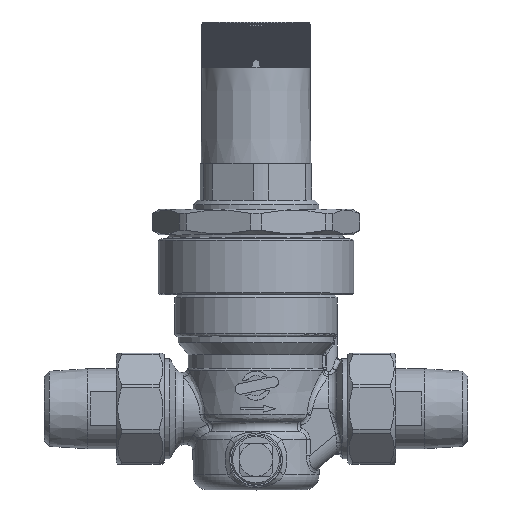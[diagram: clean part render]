
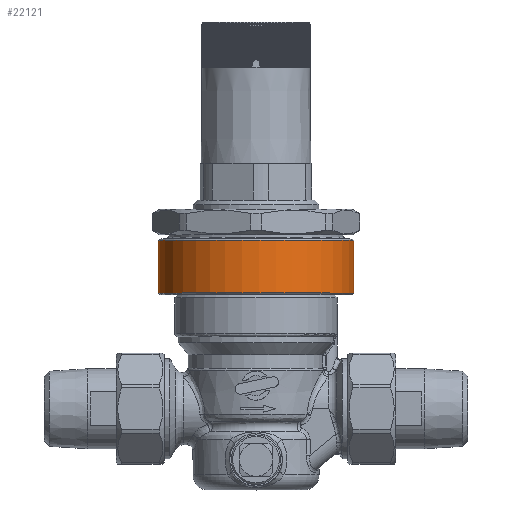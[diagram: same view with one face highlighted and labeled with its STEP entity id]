
A CAD part, top view. The second image highlights one B-rep face of the part: STEP entity #22121.
In plain terms, the highlighted cylindrical face has radius 32.5 mm (diameter 65 mm), a full revolution.
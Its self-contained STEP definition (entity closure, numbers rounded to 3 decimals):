
#841=CYLINDRICAL_SURFACE('',#24122,32.5);
#1887=CIRCLE('',#24121,32.5);
#1888=CIRCLE('',#24123,32.5);
#2727=FACE_OUTER_BOUND('',#4066,.T.);
#4066=EDGE_LOOP('',(#15690,#15691,#15692,#15693));
#5533=LINE('',#38320,#7001);
#7001=VECTOR('',#28292,32.5);
#9011=VERTEX_POINT('',#38314);
#9012=VERTEX_POINT('',#38318);
#11479=EDGE_CURVE('',#9011,#9011,#1887,.T.);
#11481=EDGE_CURVE('',#9012,#9012,#1888,.T.);
#11482=EDGE_CURVE('',#9012,#9011,#5533,.T.);
#15690=ORIENTED_EDGE('',*,*,#11481,.F.);
#15691=ORIENTED_EDGE('',*,*,#11482,.T.);
#15692=ORIENTED_EDGE('',*,*,#11479,.F.);
#15693=ORIENTED_EDGE('',*,*,#11482,.F.);
#22121=ADVANCED_FACE('',(#2727),#841,.T.);
#24121=AXIS2_PLACEMENT_3D('',#38315,#28285,#28286);
#24122=AXIS2_PLACEMENT_3D('',#38317,#28288,#28289);
#24123=AXIS2_PLACEMENT_3D('',#38319,#28290,#28291);
#28285=DIRECTION('center_axis',(0.,1.,0.));
#28286=DIRECTION('ref_axis',(-0.03,0.,-1.));
#28288=DIRECTION('center_axis',(0.,-1.,0.));
#28289=DIRECTION('ref_axis',(-0.03,0.,-1.));
#28290=DIRECTION('center_axis',(0.,-1.,0.));
#28291=DIRECTION('ref_axis',(-0.03,0.,-1.));
#28292=DIRECTION('',(0.,1.,0.));
#38314=CARTESIAN_POINT('',(0.977,83.,32.485));
#38315=CARTESIAN_POINT('Origin',(0.,83.,0.));
#38317=CARTESIAN_POINT('Origin',(0.,83.5,0.));
#38318=CARTESIAN_POINT('',(0.977,65.5,32.485));
#38319=CARTESIAN_POINT('Origin',(0.,65.5,0.));
#38320=CARTESIAN_POINT('',(0.977,83.5,32.485));
